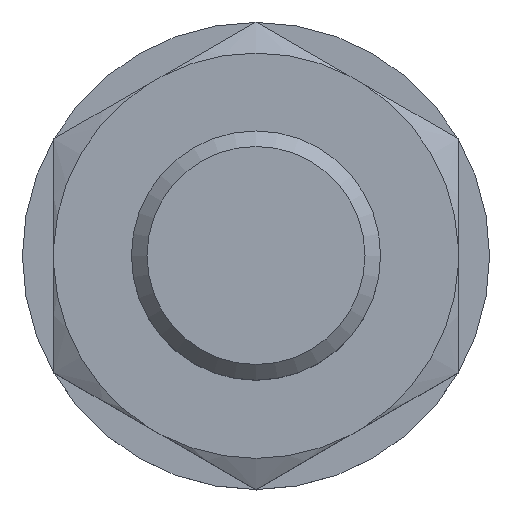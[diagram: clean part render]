
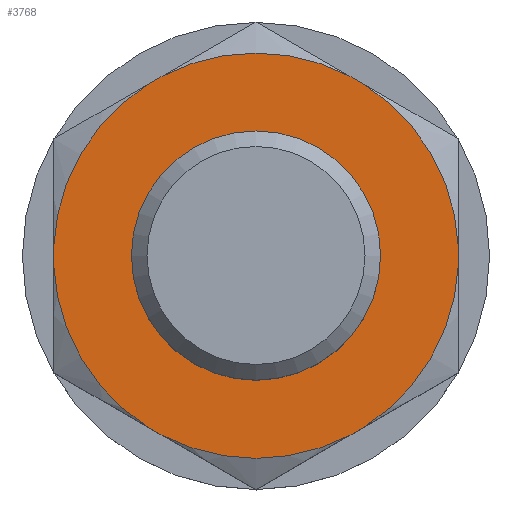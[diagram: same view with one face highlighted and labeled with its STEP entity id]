
A CAD part, top view. The second image highlights one B-rep face of the part: STEP entity #3768.
In plain terms, the highlighted planar face has unit normal (0, 0, 1).
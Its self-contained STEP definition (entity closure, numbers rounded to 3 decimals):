
#372=CARTESIAN_POINT('',(-4.,0.0,-4.));
#373=VERTEX_POINT('',#372);
#374=CARTESIAN_POINT('',(0.0,0.0,-4.));
#375=DIRECTION('',(0.0,0.0,1.0));
#376=DIRECTION('',(1.0,0.0,0.0));
#377=AXIS2_PLACEMENT_3D('',#374,#375,#376);
#378=CIRCLE('',#377,4.);
#379=EDGE_CURVE('',#373,#373,#378,.T.);
#3158=CARTESIAN_POINT('',(3.017,5.764,-4.));
#3159=VERTEX_POINT('',#3158);
#3173=CARTESIAN_POINT('',(3.483,5.495,-4.));
#3174=VERTEX_POINT('',#3173);
#3175=CARTESIAN_POINT('',(3.483,5.495,-4.));
#3176=DIRECTION('',(-0.866,0.5,0.0));
#3177=VECTOR('',#3176,0.537);
#3178=LINE('',#3175,#3177);
#3179=EDGE_CURVE('',#3174,#3159,#3178,.T.);
#3256=CARTESIAN_POINT('',(-3.483,5.495,-4.));
#3257=VERTEX_POINT('',#3256);
#3271=CARTESIAN_POINT('',(-3.017,5.764,-4.));
#3272=VERTEX_POINT('',#3271);
#3273=CARTESIAN_POINT('',(-3.017,5.764,-4.));
#3274=DIRECTION('',(-0.866,-0.5,0.0));
#3275=VECTOR('',#3274,0.537);
#3276=LINE('',#3273,#3275);
#3277=EDGE_CURVE('',#3272,#3257,#3276,.T.);
#3326=CARTESIAN_POINT('',(-6.5,-0.269,-4.));
#3327=VERTEX_POINT('',#3326);
#3341=CARTESIAN_POINT('',(-6.5,0.269,-4.));
#3342=VERTEX_POINT('',#3341);
#3343=CARTESIAN_POINT('',(-6.5,0.269,-4.));
#3344=DIRECTION('',(0.0,-1.0,0.0));
#3345=VECTOR('',#3344,0.537);
#3346=LINE('',#3343,#3345);
#3347=EDGE_CURVE('',#3342,#3327,#3346,.T.);
#3438=CARTESIAN_POINT('',(-3.017,-5.764,-4.));
#3439=VERTEX_POINT('',#3438);
#3453=CARTESIAN_POINT('',(-3.483,-5.495,-4.));
#3454=VERTEX_POINT('',#3453);
#3455=CARTESIAN_POINT('',(-3.483,-5.495,-4.));
#3456=DIRECTION('',(0.866,-0.5,0.0));
#3457=VECTOR('',#3456,0.537);
#3458=LINE('',#3455,#3457);
#3459=EDGE_CURVE('',#3454,#3439,#3458,.T.);
#3529=CARTESIAN_POINT('',(3.483,-5.495,-4.));
#3530=VERTEX_POINT('',#3529);
#3544=CARTESIAN_POINT('',(3.017,-5.764,-4.));
#3545=VERTEX_POINT('',#3544);
#3546=CARTESIAN_POINT('',(3.017,-5.764,-4.));
#3547=DIRECTION('',(0.866,0.5,0.0));
#3548=VECTOR('',#3547,0.537);
#3549=LINE('',#3546,#3548);
#3550=EDGE_CURVE('',#3545,#3530,#3549,.T.);
#3590=CARTESIAN_POINT('',(6.5,0.269,-4.));
#3591=VERTEX_POINT('',#3590);
#3605=CARTESIAN_POINT('',(6.5,-0.269,-4.));
#3606=VERTEX_POINT('',#3605);
#3607=CARTESIAN_POINT('',(6.5,-0.269,-4.));
#3608=DIRECTION('',(0.0,1.0,0.0));
#3609=VECTOR('',#3608,0.537);
#3610=LINE('',#3607,#3609);
#3611=EDGE_CURVE('',#3606,#3591,#3610,.T.);
#3710=CARTESIAN_POINT('',(0.,7.506,-4.));
#3711=DIRECTION('',(0.0,0.0,1.0));
#3712=DIRECTION('',(1.0,0.0,0.0));
#3713=AXIS2_PLACEMENT_3D('',#3710,#3711,#3712);
#3714=PLANE('',#3713);
#3715=ORIENTED_EDGE('',*,*,#3611,.T.);
#3716=CARTESIAN_POINT('',(0.0,0.0,-4.));
#3717=DIRECTION('',(0.0,0.0,1.0));
#3718=DIRECTION('',(1.0,0.0,0.0));
#3719=AXIS2_PLACEMENT_3D('',#3716,#3717,#3718);
#3720=CIRCLE('',#3719,6.506);
#3721=EDGE_CURVE('',#3591,#3174,#3720,.T.);
#3722=ORIENTED_EDGE('',*,*,#3721,.T.);
#3723=ORIENTED_EDGE('',*,*,#3179,.T.);
#3724=CARTESIAN_POINT('',(0.0,0.0,-4.));
#3725=DIRECTION('',(0.0,0.0,1.0));
#3726=DIRECTION('',(1.0,0.0,0.0));
#3727=AXIS2_PLACEMENT_3D('',#3724,#3725,#3726);
#3728=CIRCLE('',#3727,6.506);
#3729=EDGE_CURVE('',#3159,#3272,#3728,.T.);
#3730=ORIENTED_EDGE('',*,*,#3729,.T.);
#3731=ORIENTED_EDGE('',*,*,#3277,.T.);
#3732=CARTESIAN_POINT('',(0.0,0.0,-4.));
#3733=DIRECTION('',(0.0,0.0,1.0));
#3734=DIRECTION('',(1.0,0.0,0.0));
#3735=AXIS2_PLACEMENT_3D('',#3732,#3733,#3734);
#3736=CIRCLE('',#3735,6.506);
#3737=EDGE_CURVE('',#3257,#3342,#3736,.T.);
#3738=ORIENTED_EDGE('',*,*,#3737,.T.);
#3739=ORIENTED_EDGE('',*,*,#3347,.T.);
#3740=CARTESIAN_POINT('',(0.0,0.0,-4.));
#3741=DIRECTION('',(0.0,0.0,1.0));
#3742=DIRECTION('',(1.0,0.0,0.0));
#3743=AXIS2_PLACEMENT_3D('',#3740,#3741,#3742);
#3744=CIRCLE('',#3743,6.506);
#3745=EDGE_CURVE('',#3327,#3454,#3744,.T.);
#3746=ORIENTED_EDGE('',*,*,#3745,.T.);
#3747=ORIENTED_EDGE('',*,*,#3459,.T.);
#3748=CARTESIAN_POINT('',(0.0,0.0,-4.));
#3749=DIRECTION('',(0.0,0.0,1.0));
#3750=DIRECTION('',(1.0,0.0,0.0));
#3751=AXIS2_PLACEMENT_3D('',#3748,#3749,#3750);
#3752=CIRCLE('',#3751,6.506);
#3753=EDGE_CURVE('',#3439,#3545,#3752,.T.);
#3754=ORIENTED_EDGE('',*,*,#3753,.T.);
#3755=ORIENTED_EDGE('',*,*,#3550,.T.);
#3756=CARTESIAN_POINT('',(0.0,0.0,-4.));
#3757=DIRECTION('',(0.0,0.0,1.0));
#3758=DIRECTION('',(1.0,0.0,0.0));
#3759=AXIS2_PLACEMENT_3D('',#3756,#3757,#3758);
#3760=CIRCLE('',#3759,6.506);
#3761=EDGE_CURVE('',#3530,#3606,#3760,.T.);
#3762=ORIENTED_EDGE('',*,*,#3761,.T.);
#3763=EDGE_LOOP('',(#3715,#3722,#3723,#3730,#3731,#3738,#3739,#3746,#3747,#3754,#3755,#3762));
#3764=FACE_OUTER_BOUND('',#3763,.T.);
#3765=ORIENTED_EDGE('',*,*,#379,.F.);
#3766=EDGE_LOOP('',(#3765));
#3767=FACE_BOUND('',#3766,.T.);
#3768=ADVANCED_FACE('',(#3764,#3767),#3714,.T.);
